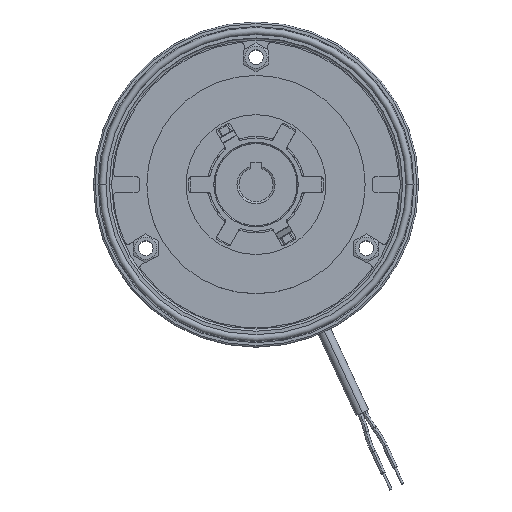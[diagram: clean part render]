
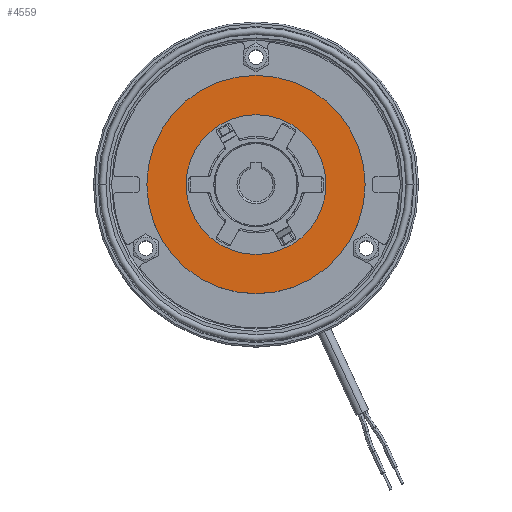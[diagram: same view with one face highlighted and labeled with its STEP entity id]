
A CAD part, top view. The second image highlights one B-rep face of the part: STEP entity #4559.
In plain terms, the highlighted planar face has unit normal (0, 0, 1).
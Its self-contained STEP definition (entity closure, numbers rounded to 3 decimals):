
#236 = AXIS2_PLACEMENT_3D ( 'NONE', #2937, #2555, #17296 ) ;
#249 = CARTESIAN_POINT ( 'NONE',  ( 48., 0., 5.25 ) ) ;
#532 = CARTESIAN_POINT ( 'NONE',  ( 0., 48., 5.25 ) ) ;
#624 = CIRCLE ( 'NONE', #11764, 30.75 ) ;
#1504 = CIRCLE ( 'NONE', #10754, 30.75 ) ;
#2555 = DIRECTION ( 'NONE',  ( 0., 0., 1. ) ) ;
#2654 = EDGE_CURVE ( 'Edge1', #6085, #12581, #4265, .T. ) ;
#2812 = AXIS2_PLACEMENT_3D ( 'NONE', #532, #9532, #15425 ) ;
#2937 = CARTESIAN_POINT ( 'NONE',  ( 0., 0., 5.25 ) ) ;
#3326 = CARTESIAN_POINT ( 'NONE',  ( -48., 0., 5.25 ) ) ;
#3788 = VERTEX_POINT ( 'NONE', #7649 ) ;
#3846 = DIRECTION ( 'NONE',  ( 1., 0., 0. ) ) ;
#4077 = EDGE_CURVE ( 'Edge9', #3788, #8782, #624, .T. ) ;
#4265 = CIRCLE ( 'NONE', #236, 48. ) ;
#4559 = ADVANCED_FACE ( 'NONE', ( #7871, #13788 ), #11087, .F. ) ;
#5194 = CARTESIAN_POINT ( 'NONE',  ( 0., 0., 5.25 ) ) ;
#5502 = DIRECTION ( 'NONE',  ( 1., 0., 0. ) ) ;
#6085 = VERTEX_POINT ( 'NONE', #3326 ) ;
#6141 = CIRCLE ( 'NONE', #14186, 48. ) ;
#7045 = EDGE_CURVE ( 'Edge1', #12581, #6085, #6141, .T. ) ;
#7063 = CARTESIAN_POINT ( 'NONE',  ( -30.75, 0., 5.25 ) ) ;
#7121 = DIRECTION ( 'NONE',  ( 1., 0., 0. ) ) ;
#7175 = EDGE_LOOP ( 'NONE', ( #13937, #15250 ) ) ;
#7649 = CARTESIAN_POINT ( 'NONE',  ( 30.75, 0., 5.25 ) ) ;
#7871 = FACE_BOUND ( 'NONE', #12159, .T. ) ;
#8782 = VERTEX_POINT ( 'NONE', #7063 ) ;
#9226 = ORIENTED_EDGE ( 'NONE', *, *, #9991, .F. ) ;
#9532 = DIRECTION ( 'NONE',  ( 0., 0., -1. ) ) ;
#9991 = EDGE_CURVE ( 'Edge9', #8782, #3788, #1504, .T. ) ;
#10051 = DIRECTION ( 'NONE',  ( 0., 0., 1. ) ) ;
#10754 = AXIS2_PLACEMENT_3D ( 'NONE', #18687, #10051, #5502 ) ;
#11087 = PLANE ( 'NONE',  #2812 ) ;
#11689 = DIRECTION ( 'NONE',  ( 0., 0., 1. ) ) ;
#11764 = AXIS2_PLACEMENT_3D ( 'NONE', #5194, #13807, #3846 ) ;
#12159 = EDGE_LOOP ( 'NONE', ( #12197, #9226 ) ) ;
#12197 = ORIENTED_EDGE ( 'NONE', *, *, #4077, .F. ) ;
#12581 = VERTEX_POINT ( 'NONE', #249 ) ;
#12937 = CARTESIAN_POINT ( 'NONE',  ( 0., 0., 5.25 ) ) ;
#13788 = FACE_OUTER_BOUND ( 'NONE', #7175, .T. ) ;
#13807 = DIRECTION ( 'NONE',  ( 0., 0., 1. ) ) ;
#13937 = ORIENTED_EDGE ( 'NONE', *, *, #7045, .T. ) ;
#14186 = AXIS2_PLACEMENT_3D ( 'NONE', #12937, #11689, #7121 ) ;
#15250 = ORIENTED_EDGE ( 'NONE', *, *, #2654, .T. ) ;
#15425 = DIRECTION ( 'NONE',  ( -1., 0., 0. ) ) ;
#17296 = DIRECTION ( 'NONE',  ( 1., 0., 0. ) ) ;
#18687 = CARTESIAN_POINT ( 'NONE',  ( 0., 0., 5.25 ) ) ;
